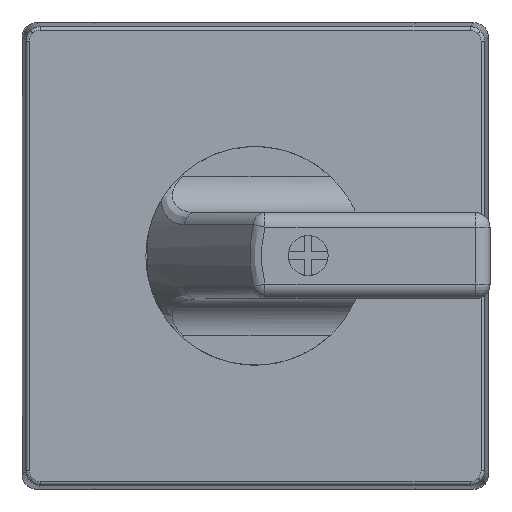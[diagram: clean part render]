
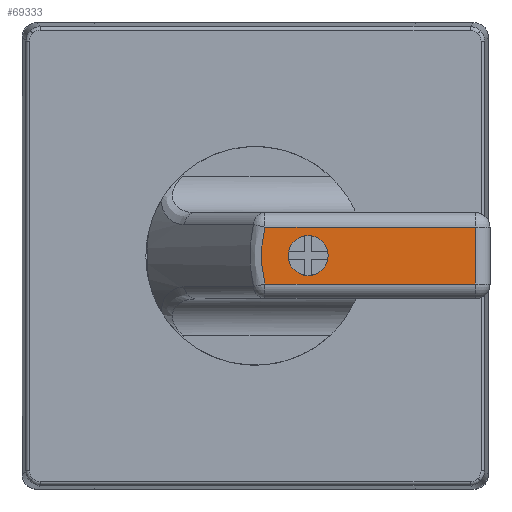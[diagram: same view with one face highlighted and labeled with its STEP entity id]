
A CAD part, top view. The second image highlights one B-rep face of the part: STEP entity #69333.
In plain terms, the highlighted planar face has unit normal (0, 0, 1).
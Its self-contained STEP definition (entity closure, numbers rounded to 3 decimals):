
#20919 = VERTEX_POINT ( 'NONE', #86757 ) ;
#20920 = VERTEX_POINT ( 'NONE', #86761 ) ;
#20958 = VERTEX_POINT ( 'NONE', #86878 ) ;
#20964 = VERTEX_POINT ( 'NONE', #86898 ) ;
#20966 = VERTEX_POINT ( 'NONE', #86906 ) ;
#20967 = VERTEX_POINT ( 'NONE', #86909 ) ;
#38822 = ORIENTED_EDGE ( 'NONE', *, *, #58008, .T. ) ;
#38823 = ORIENTED_EDGE ( 'NONE', *, *, #58009, .T. ) ;
#38824 = ORIENTED_EDGE ( 'NONE', *, *, #58010, .T. ) ;
#38825 = ORIENTED_EDGE ( 'NONE', *, *, #58011, .T. ) ;
#38826 = ORIENTED_EDGE ( 'NONE', *, *, #58012, .F. ) ;
#38827 = ORIENTED_EDGE ( 'NONE', *, *, #57958, .F. ) ;
#51283 = AXIS2_PLACEMENT_3D ( 'NONE', #60027, #60028, #60030 ) ;
#51328 = AXIS2_PLACEMENT_3D ( 'NONE', #64326, #64328, #64330 ) ;
#53272 = AXIS2_PLACEMENT_3D ( 'NONE', #80893, #80909, #80911 ) ;
#55154 = EDGE_LOOP ( 'NONE', ( #38826, #38827 ) ) ;
#55159 = EDGE_LOOP ( 'NONE', ( #38822, #38823, #38824, #38825 ) ) ;
#56826 =( BOUNDED_CURVE ( )  B_SPLINE_CURVE ( 3, ( #64305, #64294, #64317, #64318 ),
 .UNSPECIFIED., .F., .F. ) 
 B_SPLINE_CURVE_WITH_KNOTS ( ( 4, 4 ),
 ( 2.955, 3.328 ),
 .UNSPECIFIED. ) 
 CURVE ( )  GEOMETRIC_REPRESENTATION_ITEM ( )  RATIONAL_B_SPLINE_CURVE ( ( 1., 0.988, 0.988, 1. ) ) 
 REPRESENTATION_ITEM ( '' )  );
#57958 = EDGE_CURVE ( 'NONE', #20919, #20920, #62802, .T. ) ;
#58008 = EDGE_CURVE ( 'NONE', #20964, #20958, #62930, .T. ) ;
#58009 = EDGE_CURVE ( 'NONE', #20958, #20966, #62924, .T. ) ;
#58010 = EDGE_CURVE ( 'NONE', #20966, #20967, #62935, .T. ) ;
#58011 = EDGE_CURVE ( 'NONE', #20967, #20964, #56826, .T. ) ;
#58012 = EDGE_CURVE ( 'NONE', #20920, #20919, #62940, .T. ) ;
#60027 = CARTESIAN_POINT ( 'NONE',  ( 7.259, 0., 24. ) ) ;
#60028 = DIRECTION ( 'NONE',  ( 0., 0., 1. ) ) ;
#60030 = DIRECTION ( 'NONE',  ( 1., 0., 0. ) ) ;
#62802 = CIRCLE ( 'NONE', #51283, 2.75 ) ;
#62924 = LINE ( 'NONE', #64297, #62937 ) ;
#62930 = LINE ( 'NONE', #64286, #62933 ) ;
#62933 = VECTOR ( 'NONE', #64284, 1000. ) ;
#62935 = LINE ( 'NONE', #64310, #62939 ) ;
#62937 = VECTOR ( 'NONE', #64307, 1000. ) ;
#62939 = VECTOR ( 'NONE', #64311, 1000. ) ;
#62940 = CIRCLE ( 'NONE', #51328, 2.75 ) ;
#64284 = DIRECTION ( 'NONE',  ( 1., 0., 0. ) ) ;
#64286 = CARTESIAN_POINT ( 'NONE',  ( 32.209, -3.9, 24. ) ) ;
#64294 = CARTESIAN_POINT ( 'NONE',  ( 0.724, 1.315, 24. ) ) ;
#64297 = CARTESIAN_POINT ( 'NONE',  ( 30.209, 5.9, 24. ) ) ;
#64305 = CARTESIAN_POINT ( 'NONE',  ( 1.329, 3.9, 24. ) ) ;
#64307 = DIRECTION ( 'NONE',  ( 0., 1., 0. ) ) ;
#64310 = CARTESIAN_POINT ( 'NONE',  ( 0.814, 3.9, 24. ) ) ;
#64311 = DIRECTION ( 'NONE',  ( -1., 0., 0. ) ) ;
#64317 = CARTESIAN_POINT ( 'NONE',  ( 0.724, -1.315, 24. ) ) ;
#64318 = CARTESIAN_POINT ( 'NONE',  ( 1.329, -3.9, 24. ) ) ;
#64326 = CARTESIAN_POINT ( 'NONE',  ( 7.259, 0., 24. ) ) ;
#64328 = DIRECTION ( 'NONE',  ( 0., 0., 1. ) ) ;
#64330 = DIRECTION ( 'NONE',  ( 1., 0., 0. ) ) ;
#69333 = ADVANCED_FACE ( 'NONE', ( #77678, #77681 ), #80905, .F. ) ;
#77678 = FACE_OUTER_BOUND ( 'NONE', #55159, .T. ) ;
#77681 = FACE_BOUND ( 'NONE', #55154, .T. ) ;
#80893 = CARTESIAN_POINT ( 'NONE',  ( 0., 0., 24. ) ) ;
#80905 = PLANE ( 'NONE',  #53272 ) ;
#80909 = DIRECTION ( 'NONE',  ( 0., 0., -1. ) ) ;
#80911 = DIRECTION ( 'NONE',  ( -1., 0., 0. ) ) ;
#86757 = CARTESIAN_POINT ( 'NONE',  ( 4.509, 0., 24. ) ) ;
#86761 = CARTESIAN_POINT ( 'NONE',  ( 10.009, 0., 24. ) ) ;
#86878 = CARTESIAN_POINT ( 'NONE',  ( 30.209, -3.9, 24. ) ) ;
#86898 = CARTESIAN_POINT ( 'NONE',  ( 1.329, -3.9, 24. ) ) ;
#86906 = CARTESIAN_POINT ( 'NONE',  ( 30.209, 3.9, 24. ) ) ;
#86909 = CARTESIAN_POINT ( 'NONE',  ( 1.329, 3.9, 24. ) ) ;
